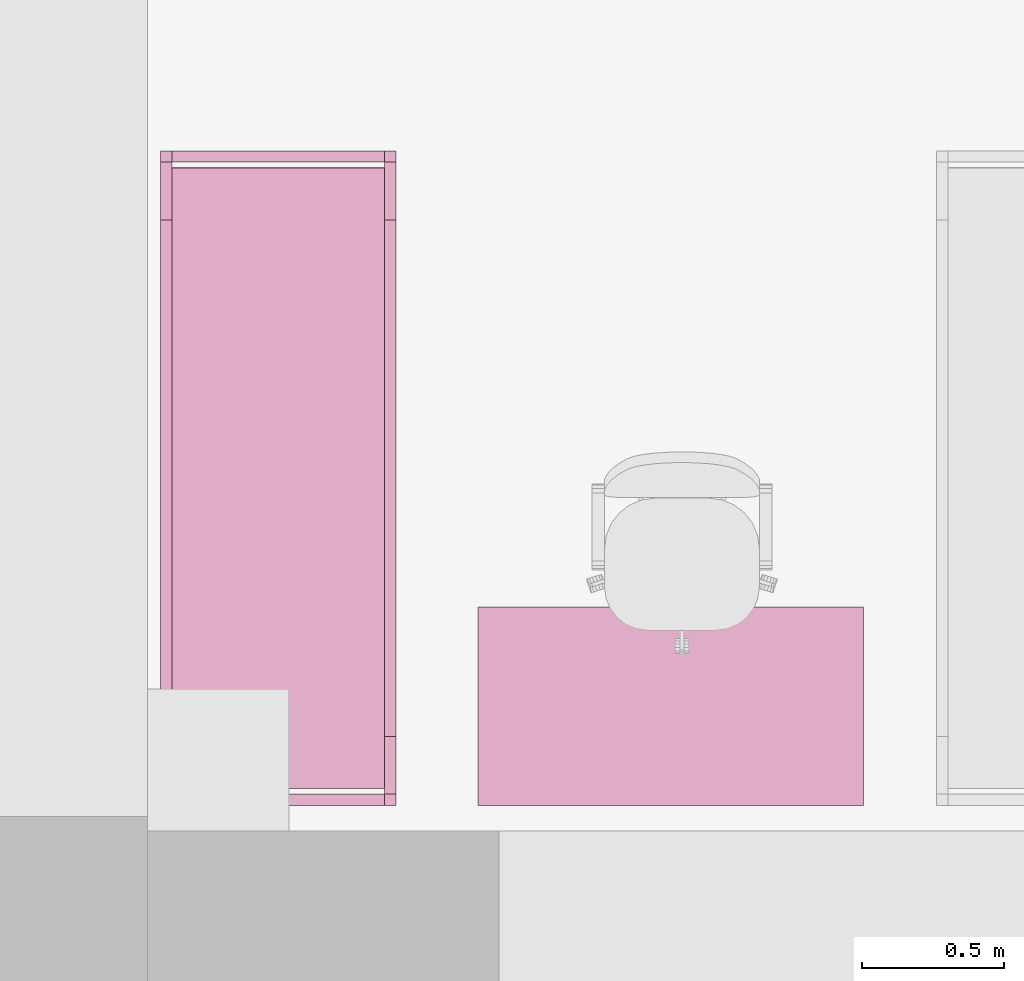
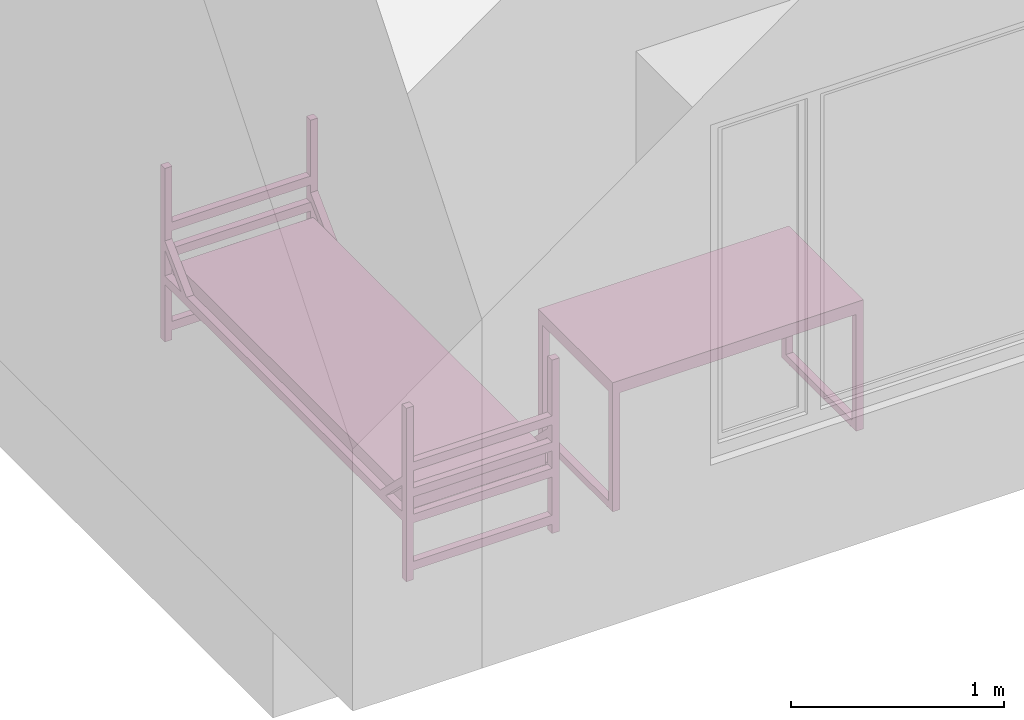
# One storey, part 26 of 46: 2 furnishings.
"""IFC2X3 building model written with IfcOpenShell, lengths in millimetres."""

import ifcopenshell
import ifcopenshell.guid

model = None  # the IFC model being written
_history = None  # IfcOwnerHistory: only IFC2X3 demands one
_inside = {}  # id of a spatial element -> (the spatial element, [elements in it])
_under = {}  # id of a project, library or spatial element -> (it, [spatial elements below it])
_declared = {}  # id of a project -> (the project, [libraries it declares])
_typed = {}  # id of a type object -> (the type object, [elements of that type])
_made_of = {}  # id of a material, layer set ... -> (it, [elements and type objects made of it])


def new_model(schema):
    """Start an empty IFC model of exactly this schema.

    Asked for "IFC4X3", IfcOpenShell would pick the latest addendum, in which some entities
    have other attributes; the version numbers below select the first issue.
    IFC2X3 requires an IfcOwnerHistory on every rooted entity: one is made here for all.
    """
    global model, _history
    if schema == "IFC4X3":
        model = ifcopenshell.file(schema_version=(4, 3, 0, 0))
    else:
        model = ifcopenshell.file(schema=schema)
    _inside.clear()
    _under.clear()
    _declared.clear()
    _typed.clear()
    _made_of.clear()
    _history = None
    if model.schema == "IFC2X3":
        org = make("IfcOrganization", Name="unknown")
        user = make(
            "IfcPersonAndOrganization",
            ThePerson=make("IfcPerson", FamilyName="unknown"),
            TheOrganization=org,
        )
        app = make(
            "IfcApplication",
            ApplicationDeveloper=org,
            Version="unknown",
            ApplicationFullName="unknown",
            ApplicationIdentifier="unknown",
        )
        _history = make(
            "IfcOwnerHistory",
            OwningUser=user,
            OwningApplication=app,
            ChangeAction="ADDED",
            CreationDate=0,
        )
    return model


def make(cls, **values):
    """One entity of the class cls with the attributes given. An attribute that is None is left unset."""
    return model.create_entity(
        cls, **{name: value for name, value in values.items() if value is not None}
    )


def entity(cls, *values):
    """Any entity or typed value of the class cls, its attributes in the order of the schema. None: left unset."""
    e = model.create_entity(cls)
    for i, value in enumerate(values):
        if value is not None:
            e[i] = value
    return e


def rooted(cls, **values):
    """An entity with a GlobalId (a new one), such as an element, a storey or a relation."""
    return make(cls, GlobalId=ifcopenshell.guid.new(), OwnerHistory=_history, **values)


def si_unit(unit_type, name, prefix=None):
    """IfcSIUnit, for example si_unit("LENGTHUNIT", "METRE", prefix="MILLI")."""
    return make("IfcSIUnit", UnitType=unit_type, Prefix=prefix, Name=name)


def converted_unit(unit_type, name, factor, base, dimensions=None, offset=None):
    """IfcConversionBasedUnit, such as the inch: factor (a typed value) times the base unit."""
    return make(
        "IfcConversionBasedUnit"
        if offset is None
        else "IfcConversionBasedUnitWithOffset",
        ConversionOffset=offset,
        Dimensions=None
        if dimensions is None
        else entity("IfcDimensionalExponents", *dimensions),
        UnitType=unit_type,
        Name=name,
        ConversionFactor=make(
            "IfcMeasureWithUnit", ValueComponent=factor, UnitComponent=base
        ),
    )


def derived_unit(unit_type, elements):
    """IfcDerivedUnit: a product of units, each with its exponent."""
    return make(
        "IfcDerivedUnit",
        Elements=[
            make("IfcDerivedUnitElement", Unit=unit, Exponent=power)
            for unit, power in elements
        ],
        UnitType=unit_type,
    )


def assignment(units):
    """IfcUnitAssignment: the units of a project."""
    return None if units is None else make("IfcUnitAssignment", Units=units)


def point(xyz):
    """IfcCartesianPoint."""
    return None if xyz is None else make("IfcCartesianPoint", Coordinates=xyz)


def direction(xyz):
    """IfcDirection."""
    return None if xyz is None else make("IfcDirection", DirectionRatios=xyz)


def frame(location, z_axis=None, x_axis=None):
    """IfcAxis2Placement3D, a coordinate frame: its origin and axes. An axis left out is left unset."""
    return make(
        "IfcAxis2Placement3D",
        Location=point(location),
        Axis=direction(z_axis),
        RefDirection=direction(x_axis),
    )


def frame_2d(location, x_axis=None):
    """IfcAxis2Placement2D, a coordinate frame in the plane: its origin and x axis."""
    return make(
        "IfcAxis2Placement2D", Location=point(location), RefDirection=direction(x_axis)
    )


def origin():
    """The frame at (0, 0, 0) with its axes left unset."""
    return frame((0.0, 0.0, 0.0))


def place(relative_to, where):
    """IfcLocalPlacement: puts the frame where relative to a parent placement (None: the world)."""
    return make(
        "IfcLocalPlacement", PlacementRelTo=relative_to, RelativePlacement=where
    )


def context(
    kind, dimensions, precision=None, world=None, true_north=None, identifier=None
):
    """IfcGeometricRepresentationContext, for example the 3D "Model" context."""
    return make(
        "IfcGeometricRepresentationContext",
        ContextIdentifier=identifier,
        ContextType=kind,
        CoordinateSpaceDimension=dimensions,
        Precision=precision,
        WorldCoordinateSystem=world,
        TrueNorth=true_north,
    )


def subcontext(parent, identifier, kind, view, scale=None):
    """IfcGeometricRepresentationSubContext, for example "Body" below "Model"."""
    return make(
        "IfcGeometricRepresentationSubContext",
        ContextIdentifier=identifier,
        ContextType=kind,
        ParentContext=parent,
        TargetScale=scale,
        TargetView=view,
    )


def project(units=None, contexts=None):
    """IfcProject with its units and contexts."""
    return rooted(
        "IfcProject",
        Name="project",
        RepresentationContexts=contexts,
        UnitsInContext=assignment(units),
    )


def spatial(cls, under=None, at=None, **own):
    """A site, building, storey or space (cls), placed at a placement, below another one or the project."""
    s = rooted(cls, ObjectPlacement=at, **own)
    if under is not None:
        _under.setdefault(under.id(), (under, []))[1].append(s)
    return s


def polyline(points):
    """IfcPolyline through the points."""
    return make("IfcPolyline", Points=[point(p) for p in points])


def circle_curve(where, radius):
    """IfcCircle in the frame where."""
    return make("IfcCircle", Position=where, Radius=radius)


def parameter(value):
    """IfcParameterValue: where a trimmed curve begins or ends, as a parameter of its basis curve."""
    return model.create_entity("IfcParameterValue", value)


def trimmed(basis, trim1, trim2, sense, master):
    """IfcTrimmedCurve: the piece of a basis curve between two trims."""
    return make(
        "IfcTrimmedCurve",
        BasisCurve=basis,
        Trim1=trim1,
        Trim2=trim2,
        SenseAgreement=sense,
        MasterRepresentation=master,
    )


def segment(curve, same_sense, transition):
    """IfcCompositeCurveSegment."""
    return make(
        "IfcCompositeCurveSegment",
        Transition=transition,
        SameSense=same_sense,
        ParentCurve=curve,
    )


def composite_curve(segments, self_intersect=None):
    """IfcCompositeCurve: segments joined end to end."""
    return make("IfcCompositeCurve", Segments=segments, SelfIntersect=self_intersect)


def profile(cls, at=None, kind="AREA", **sizes):
    """A parametric profile (cls). Its sizes go by their IFC names, for example OverallWidth=200.0."""
    return make(cls, ProfileType=kind, Position=at, **sizes)


def rectangle(**sizes):
    """IfcRectangleProfileDef."""
    return profile("IfcRectangleProfileDef", **sizes)


def outline(outer, holes=None, kind="AREA"):
    """IfcArbitraryClosedProfileDef: a profile drawn as a closed curve; with holes, ...WithVoids."""
    if holes is None:
        return make("IfcArbitraryClosedProfileDef", ProfileType=kind, OuterCurve=outer)
    return make(
        "IfcArbitraryProfileDefWithVoids",
        ProfileType=kind,
        OuterCurve=outer,
        InnerCurves=holes,
    )


def extrude(swept, where, along, depth):
    """IfcExtrudedAreaSolid: the profile swept, set in the frame where, extruded along a direction by depth."""
    return make(
        "IfcExtrudedAreaSolid",
        SweptArea=swept,
        Position=where,
        ExtrudedDirection=direction(along),
        Depth=depth,
    )


def faces_of(points, faces, orient=None, outer=None):
    """IfcFace entities. A face is a list of loops; a loop is a list of indices into points, from 0.

    orient and outer hold one flag for each loop. By default every Orientation is true, the
    first loop of a face is its IfcFaceOuterBound and the others are IfcFaceBound.
    """
    made = []
    for i, loops in enumerate(faces):
        bounds = []
        for j, loop in enumerate(loops):
            is_outer = j == 0 if outer is None else outer[i][j]
            bounds.append(
                make(
                    "IfcFaceOuterBound" if is_outer else "IfcFaceBound",
                    Bound=make("IfcPolyLoop", Polygon=[points[k] for k in loop]),
                    Orientation=True if orient is None else orient[i][j],
                )
            )
        made.append(make("IfcFace", Bounds=bounds))
    return made


def faceted_brep(points, faces, orient=None, outer=None, voids=None):
    """IfcFacetedBrep: a solid bounded by flat faces; with voids (closed shells), ...WithVoids."""
    shared = [point(p) for p in points]
    hull = make("IfcClosedShell", CfsFaces=faces_of(shared, faces, orient, outer))
    if voids is None:
        return make("IfcFacetedBrep", Outer=hull)
    return make(
        "IfcFacetedBrepWithVoids",
        Outer=hull,
        Voids=[
            make(cls, CfsFaces=faces_of(shared, fs, o, b)) for cls, fs, o, b in voids
        ],
    )


def shape(context_of_items, identifier, shape_type, items):
    """IfcShapeRepresentation: the items that make up one representation, for example the "Body"."""
    return make(
        "IfcShapeRepresentation",
        ContextOfItems=context_of_items,
        RepresentationIdentifier=identifier,
        RepresentationType=shape_type,
        Items=items,
    )


def source(mapping_origin, context_of_items, identifier, shape_type, items):
    """IfcRepresentationMap: a shape defined once, which mapped items show again and again."""
    return make(
        "IfcRepresentationMap",
        MappingOrigin=mapping_origin,
        MappedRepresentation=shape(context_of_items, identifier, shape_type, items),
    )


def transform(
    local_origin,
    x_axis=None,
    y_axis=None,
    z_axis=None,
    scale=None,
    scale2=None,
    scale3=None,
    uniform=True,
):
    """IfcCartesianTransformationOperator3D, or its non-uniform kind. x_axis, y_axis, z_axis: its Axis1, 2, 3."""
    if uniform:
        return make(
            "IfcCartesianTransformationOperator3D",
            Axis1=direction(x_axis),
            Axis2=direction(y_axis),
            LocalOrigin=point(local_origin),
            Scale=scale,
            Axis3=direction(z_axis),
        )
    return make(
        "IfcCartesianTransformationOperator3DnonUniform",
        Axis1=direction(x_axis),
        Axis2=direction(y_axis),
        LocalOrigin=point(local_origin),
        Scale=scale,
        Axis3=direction(z_axis),
        Scale2=scale2,
        Scale3=scale3,
    )


def mapped(mapping_source, mapping_target):
    """IfcMappedItem: shows the shape of a source again, moved by a transform."""
    return make(
        "IfcMappedItem", MappingSource=mapping_source, MappingTarget=mapping_target
    )


def material(Name=None, Category=None):
    """IfcMaterial."""
    return make("IfcMaterial", Name=Name, Category=Category)


def material_list(materials):
    """IfcMaterialList."""
    return make("IfcMaterialList", Materials=materials)


def made_of(thing, what):
    """Note that an element or type object is made of a material, layer set ...; save() writes the relation."""
    if what is not None:
        _made_of.setdefault(what.id(), (what, []))[1].append(thing)
    return thing


def type_object(cls, material=None, **own):
    """A type object (cls), such as IfcWallType, which elements share."""
    return made_of(rooted(cls, **own), material)


def type_shapes(of_type, sources):
    """Give a type object the sources (RepresentationMaps) that its elements show as mapped items."""
    of_type.RepresentationMaps = sources


def element(
    cls,
    number,
    at=None,
    inside=None,
    cuts=None,
    type_object=None,
    material=None,
    context=None,
    identifier="Body",
    shape_type=None,
    held_by="IfcProductDefinitionShape",
    body=None,
    shapes=None,
    **own,
):
    """One element of the class cls, such as IfcWall. Its Tag is "e" and its number.

    at: its placement. inside: the storey or other place that contains it. cuts: it is an
    opening in that element (IfcRelVoidsElement). A single representation is given by context,
    identifier, shape_type and body (its items); several are given by shapes. held_by: the class
    of the entity that holds the representations. save() writes the other relations.
    """
    e = rooted(cls, Tag="e%d" % number, ObjectPlacement=at, **own)
    if body is not None:
        shapes = [shape(context, identifier, shape_type, body)]
    if shapes is not None:
        e.Representation = make(held_by, Representations=shapes)
    if inside is not None:
        _inside.setdefault(inside.id(), (inside, []))[1].append(e)
    if cuts is not None:
        rooted(
            "IfcRelVoidsElement", RelatingBuildingElement=cuts, RelatedOpeningElement=e
        )
    if type_object is not None:
        _typed.setdefault(type_object.id(), (type_object, []))[1].append(e)
    return made_of(e, material)


def aggregate(whole, parts):
    """IfcRelAggregates: a whole, such as a stair, and the parts it consists of."""
    return rooted("IfcRelAggregates", RelatingObject=whole, RelatedObjects=parts)


def save(model, path):
    """Write the relations noted so far, then the file.

    IfcRelAggregates (storeys below a building ...), IfcRelContainedInSpatialStructure (elements
    in a storey), IfcRelDefinesByType, IfcRelAssociatesMaterial and IfcRelDeclares: one each for
    every whole, place, type object, material and project.
    """
    for whole, parts in _under.values():
        aggregate(whole, parts)
    for where, things in _inside.values():
        rooted(
            "IfcRelContainedInSpatialStructure",
            RelatedElements=things,
            RelatingStructure=where,
        )
    for kind, things in _typed.values():
        rooted("IfcRelDefinesByType", RelatedObjects=things, RelatingType=kind)
    for what, things in _made_of.values():
        rooted("IfcRelAssociatesMaterial", RelatedObjects=things, RelatingMaterial=what)
    for by, libraries in _declared.values():
        rooted("IfcRelDeclares", RelatingContext=by, RelatedDefinitions=libraries)
    model.write(path)


model = new_model("IFC2X3")

# Units and contexts
model_context = context("Model", 3, precision=0.01, world=origin(), true_north=direction((6.12303176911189e-17, 1.0)))
body_context = subcontext(model_context, "Body", "Model", "MODEL_VIEW")
ifc_project = project(units=[si_unit("LENGTHUNIT", "METRE", prefix="MILLI"), si_unit("AREAUNIT", "SQUARE_METRE"), si_unit("VOLUMEUNIT", "CUBIC_METRE"), converted_unit("PLANEANGLEUNIT", "DEGREE", entity("IfcRatioMeasure", 0.0174532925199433), si_unit("PLANEANGLEUNIT", "RADIAN"), dimensions=[0, 0, 0, 0, 0, 0, 0]), si_unit("MASSUNIT", "GRAM", prefix="KILO"), derived_unit("MASSDENSITYUNIT", [(si_unit("MASSUNIT", "GRAM", prefix="KILO"), 1), (si_unit("LENGTHUNIT", "METRE"), -3)]), si_unit("TIMEUNIT", "SECOND"), si_unit("FREQUENCYUNIT", "HERTZ"), si_unit("THERMODYNAMICTEMPERATUREUNIT", "DEGREE_CELSIUS"), derived_unit("THERMALTRANSMITTANCEUNIT", [(si_unit("MASSUNIT", "GRAM", prefix="KILO"), 1), (si_unit("THERMODYNAMICTEMPERATUREUNIT", "KELVIN"), -1), (si_unit("TIMEUNIT", "SECOND"), -3)]), derived_unit("VOLUMETRICFLOWRATEUNIT", [(si_unit("LENGTHUNIT", "METRE"), 3), (si_unit("TIMEUNIT", "SECOND"), -1)]), si_unit("ELECTRICCURRENTUNIT", "AMPERE"), si_unit("ELECTRICVOLTAGEUNIT", "VOLT"), si_unit("POWERUNIT", "WATT"), si_unit("FORCEUNIT", "NEWTON", prefix="KILO"), si_unit("ILLUMINANCEUNIT", "LUX"), si_unit("LUMINOUSFLUXUNIT", "LUMEN"), si_unit("LUMINOUSINTENSITYUNIT", "CANDELA"), derived_unit("USERDEFINED", [(si_unit("MASSUNIT", "GRAM", prefix="KILO"), -1), (si_unit("LENGTHUNIT", "METRE"), -2), (si_unit("TIMEUNIT", "SECOND"), 3), (si_unit("LUMINOUSFLUXUNIT", "LUMEN"), 1)]), derived_unit("LINEARVELOCITYUNIT", [(si_unit("LENGTHUNIT", "METRE"), 1), (si_unit("TIMEUNIT", "SECOND"), -1)]), si_unit("PRESSUREUNIT", "PASCAL"), derived_unit("USERDEFINED", [(si_unit("LENGTHUNIT", "METRE"), -2), (si_unit("MASSUNIT", "GRAM", prefix="KILO"), 1), (si_unit("TIMEUNIT", "SECOND"), -2)]), derived_unit("LINEARFORCEUNIT", [(si_unit("MASSUNIT", "GRAM", prefix="KILO"), 1), (si_unit("LENGTHUNIT", "METRE"), 1), (si_unit("TIMEUNIT", "SECOND"), -2), (si_unit("LENGTHUNIT", "METRE"), -1)]), derived_unit("PLANARFORCEUNIT", [(si_unit("MASSUNIT", "GRAM", prefix="KILO"), 1), (si_unit("LENGTHUNIT", "METRE"), 1), (si_unit("TIMEUNIT", "SECOND"), -2), (si_unit("LENGTHUNIT", "METRE"), -2)])], contexts=[model_context])

# Site, building, storey, space
site_placement = place(None, origin())
site = spatial("IfcSite", under=ifc_project, at=site_placement, Name="Default", CompositionType="ELEMENT")
building_placement = place(site_placement, origin())
building = spatial("IfcBuilding", under=site, at=building_placement, Name="SMA ARH", CompositionType="ELEMENT")
storey_placement = place(building_placement, origin())
storey = spatial("IfcBuildingStorey", under=building, at=storey_placement, Name="1 Korrus", CompositionType="ELEMENT", Elevation=0.0)
space_placement = place(storey_placement, origin())
space = spatial("IfcSpace", under=storey, at=space_placement, Name="1-15", CompositionType="ELEMENT", InteriorOrExteriorSpace="INTERNAL")

# Furnishings
ifc_material_1 = material(Name="Madrats")
furniture_type_1 = type_object("IfcFurnitureType", Name="Kasarmu voodi ühekordne 2308x830:Kasarmu voodi ühekordne 2308x830", material=ifc_material_1)
shared_shape_1 = source(origin(), body_context, "Body", "SweptSolid", [
    extrude(rectangle(XDim=39.9999999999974, YDim=750.000000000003, at=frame_2d((-1.35003119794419e-13, -2.8421709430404e-14), x_axis=(1.0, 0.0))), frame((1.68638457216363, -1226.7969571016, 55.0), z_axis=(0.0, 0.0, 1.0), x_axis=(0.0, -1.0, 0.0)), (0.0, 0.0, 1.0), 49.9999999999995),
    extrude(rectangle(XDim=39.9999999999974, YDim=750.000000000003, at=frame_2d((-1.35003119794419e-13, -2.8421709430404e-14), x_axis=(1.0, 0.0))), frame((1.68638457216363, -1226.7969571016, 325.0), z_axis=(0.0, 0.0, 1.0), x_axis=(0.0, -1.0, 0.0)), (0.0, 0.0, 1.0), 49.9999999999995),
    extrude(rectangle(XDim=39.9999999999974, YDim=750.000000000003, at=frame_2d((-1.35003119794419e-13, -2.8421709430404e-14), x_axis=(1.0, 0.0))), frame((1.68638457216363, -1226.7969571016, 475.0), z_axis=(0.0, 0.0, 1.0), x_axis=(0.0, -1.0, 0.0)), (0.0, 0.0, 1.0), 49.9999999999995),
    extrude(rectangle(XDim=39.9999999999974, YDim=750.000000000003, at=frame_2d((-1.35003119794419e-13, -2.8421709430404e-14), x_axis=(1.0, 0.0))), frame((1.68638457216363, -1226.7969571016, 625.0), z_axis=(0.0, 0.0, 1.0), x_axis=(0.0, -1.0, 0.0)), (0.0, 0.0, 1.0), 50.0000000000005),
    extrude(rectangle(XDim=39.9999999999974, YDim=750.000000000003, at=frame_2d((1.35003119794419e-13, -2.8421709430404e-14), x_axis=(1.0, 0.0))), frame((1.68638457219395, 1041.2030428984, 55.0), z_axis=(0.0, 0.0, 1.0), x_axis=(0.0, -1.0, 0.0)), (0.0, 0.0, 1.0), 50.0000000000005),
    extrude(rectangle(XDim=39.9999999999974, YDim=750.000000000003, at=frame_2d((1.35003119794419e-13, -2.8421709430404e-14), x_axis=(1.0, 0.0))), frame((1.68638457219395, 1041.2030428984, 325.0), z_axis=(0.0, 0.0, 1.0), x_axis=(0.0, -1.0, 0.0)), (0.0, 0.0, 1.0), 50.0000000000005),
    extrude(rectangle(XDim=39.9999999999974, YDim=750.000000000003, at=frame_2d((1.35003119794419e-13, -2.8421709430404e-14), x_axis=(1.0, 0.0))), frame((1.68638457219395, 1041.2030428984, 475.0), z_axis=(0.0, 0.0, 1.0), x_axis=(0.0, -1.0, 0.0)), (0.0, 0.0, 1.0), 50.0000000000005),
    extrude(rectangle(XDim=39.9999999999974, YDim=750.000000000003, at=frame_2d((1.35003119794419e-13, -2.8421709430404e-14), x_axis=(1.0, 0.0))), frame((1.68638457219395, 1041.2030428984, 625.0), z_axis=(0.0, 0.0, 1.0), x_axis=(0.0, -1.0, 0.0)), (0.0, 0.0, 1.0), 49.9999999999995),
    extrude(outline(composite_curve([segment(trimmed(circle_curve(frame_2d((1085.0, -40.0), x_axis=(1.0, 0.0)), 10.0), [parameter(270.0)], [parameter(0.0)], True, "PARAMETER"), True, "CONTINUOUS"), segment(polyline([(1095.0, -40.0), (1095.0, 40.0)]), True, "CONTINUOUS"), segment(trimmed(circle_curve(frame_2d((1085.0, 40.0), x_axis=(1.0, 0.0)), 10.0), [parameter(0.0)], [parameter(90.0000000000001)], True, "PARAMETER"), True, "CONTINUOUS"), segment(polyline([(1085.0, 50.0), (-1085.0, 50.0)]), True, "CONTINUOUS"), segment(trimmed(circle_curve(frame_2d((-1085.0, 40.0), x_axis=(1.0, 0.0)), 10.0), [parameter(90.0000000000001)], [parameter(180.0)], True, "PARAMETER"), True, "CONTINUOUS"), segment(polyline([(-1095.0, 40.0), (-1095.0, -40.0)]), True, "CONTINUOUS"), segment(trimmed(circle_curve(frame_2d((-1085.0, -40.0), x_axis=(1.0, 0.0)), 10.0), [parameter(180.0)], [parameter(270.0)], True, "PARAMETER"), True, "CONTINUOUS"), segment(polyline([(-1085.0, -50.0), (1085.0, -50.0)]), True, "CONTINUOUS")], self_intersect=False)), frame((-373.313615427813, -92.7969571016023, 405.0), z_axis=(1.0, 0.0, 0.0), x_axis=(0.0, -1.0, 0.0)), (0.0, 0.0, 1.0), 750.000000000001),
    extrude(outline(polyline([(-1114.0, -100.0), (1114.0, -100.0), (1114.0, -50.0), (961.59199141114, -50.0), (1114.0, 100.0), (1114.0, 150.0), (910.789321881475, -50.0), (-910.789321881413, -50.0), (-1114.0, 150.0), (-1114.0, 100.0), (-961.591991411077, -50.0), (-1114.0, -50.0), (-1114.0, -100.0)])), frame((-413.313615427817, -92.7969571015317, 430.0), z_axis=(1.0, 0.0, 0.0), x_axis=(0.0, 1.0, 0.0)), (0.0, 0.0, 1.0), 39.9999999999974),
    extrude(outline(polyline([(-1114.0, -100.0), (1114.0, -100.0), (1114.0, -50.0), (961.591991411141, -50.0), (1114.0, 100.0), (1114.0, 150.0), (910.789321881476, -50.0), (-910.789321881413, -50.0), (-1114.0, 150.0), (-1114.0, 100.0), (-961.591991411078, -50.0), (-1114.0, -50.0), (-1114.0, -100.0)])), frame((376.686384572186, -92.796957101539, 430.0), z_axis=(1.0, 0.0, 0.0), x_axis=(0.0, 1.0, 0.0)), (0.0, 0.0, 1.0), 39.9999999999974),
    extrude(rectangle(XDim=39.9999999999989, YDim=39.9999999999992, at=frame_2d((-6.75015598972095e-14, 0.0), x_axis=(1.0, 0.0))), frame((396.686384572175, -1226.79695710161, 0.0), z_axis=(0.0, 0.0, 1.0), x_axis=(0.0, 1.0, 0.0)), (0.0, 0.0, 1.0), 995.0),
    extrude(rectangle(XDim=39.9999999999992, YDim=39.9999999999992, at=frame_2d((-1.35003119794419e-13, 0.0), x_axis=(1.0, 0.0))), frame((396.686384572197, 1041.20304289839, 0.0), z_axis=(0.0, 0.0, 1.0), x_axis=(0.0, 1.0, 0.0)), (0.0, 0.0, 1.0), 995.0),
    extrude(rectangle(XDim=40.0000000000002, YDim=39.9999999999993, at=frame_2d((-1.35003119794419e-13, 0.0), x_axis=(1.0, 0.0))), frame((-393.313615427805, 1041.2030428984, 0.0), z_axis=(0.0, 0.0, 1.0), x_axis=(0.0, 1.0, 0.0)), (0.0, 0.0, 1.0), 995.0),
    extrude(rectangle(XDim=39.9999999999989, YDim=39.9999999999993, at=frame_2d((-6.75015598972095e-14, 0.0), x_axis=(1.0, 0.0))), frame((-393.313615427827, -1226.7969571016, 0.0), z_axis=(0.0, 0.0, 1.0), x_axis=(0.0, 1.0, 0.0)), (0.0, 0.0, 1.0), 995.0),
])
type_shapes(furniture_type_1, [shared_shape_1])
furnishing_1_placement = place(space_placement, frame((460.0, 1336.79695710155, 0.0)))
element("IfcFurnishingElement", 1, at=furnishing_1_placement, inside=space, type_object=furniture_type_1, material=ifc_material_1, Name="Kasarmu voodi ühekordne 2308x830:Kasarmu voodi ühekordne 2308x830", ObjectType="Kasarmu voodi ühekordne 2308x830:Kasarmu voodi ühekordne 2308x830", context=body_context, shape_type="MappedRepresentation", body=[
    mapped(shared_shape_1, transform((0.0, 0.0, 0.0), scale=1.0)),
])
ifc_material_2 = material(Name="<Unnamed>")
ifc_material_list = material_list([ifc_material_2, ifc_material_2])
furniture_type_2 = type_object("IfcFurnitureType", Name="kirjutuslaud 1360x700mm:kirjutuslaud 1360x700mm", material=ifc_material_list)
shared_shape_2 = source(origin(), body_context, "Body", "Brep", [
    faceted_brep([(680.0, -350.0, 720.0), (680.0, 350.0, 720.0), (680.0, 350.0, 750.0), (680.0, -350.0, 750.0), (-680.0, -350.0, 720.0), (-680.0, -350.0, 750.0), (-680.0, 350.0, 750.0), (-680.0, 350.0, 720.0)], [[[0, 1, 2, 3]], [[4, 5, 6, 7]], [[1, 0, 4, 7]], [[2, 1, 7, 6]], [[3, 2, 6, 5]], [[0, 3, 5, 4]]]),
    faceted_brep([(-640.0, -310.0, 680.0), (-640.0, 310.0, 680.0), (-640.0, 310.0, 720.0), (-640.0, -310.0, 720.0), (-680.0, -350.0, 720.0), (-680.0, 350.0, 720.0), (-680.0, 350.0, 10.0), (-680.0, -350.0, 10.0), (-680.0, 310.0, 680.0), (-680.0, -310.0, 680.0), (-680.0, -310.0, 50.0), (-680.0, 310.0, 50.0), (-640.0, -350.0, 10.0), (-640.0, -350.0, 680.0), (640.0, -350.0, 680.0), (640.0, -350.0, 10.0), (680.0, -350.0, 10.0), (680.0, -350.0, 720.0), (-640.0, 350.0, 10.0), (680.0, 350.0, 720.0), (680.0, 350.0, 10.0), (640.0, 350.0, 10.0), (640.0, 350.0, 680.0), (-640.0, 350.0, 680.0), (640.0, 310.0, 720.0), (640.0, -310.0, 720.0), (-640.0, 310.0, 50.0), (-640.0, -310.0, 50.0), (640.0, -310.0, 680.0), (640.0, 310.0, 680.0), (680.0, 310.0, 680.0), (680.0, 310.0, 50.0), (680.0, -310.0, 50.0), (680.0, -310.0, 680.0), (640.0, -310.0, 50.0), (640.0, 310.0, 50.0)], [[[0, 1, 2, 3]], [[4, 5, 6, 7], [8, 9, 10, 11]], [[4, 7, 12, 13, 14, 15, 16, 17]], [[18, 12, 7, 6]], [[6, 5, 19, 20, 21, 22, 23, 18]], [[19, 5, 4, 17], [2, 24, 25, 3]], [[26, 1, 8, 11]], [[27, 26, 11, 10]], [[0, 27, 10, 9]], [[1, 0, 9, 8]], [[14, 13, 0, 28]], [[24, 2, 1, 29]], [[3, 25, 28, 0]], [[17, 16, 20, 19], [30, 31, 32, 33]], [[21, 15, 14, 28, 34, 35, 29, 22]], [[20, 16, 15, 21]], [[31, 30, 29, 35]], [[32, 31, 35, 34]], [[33, 32, 34, 28]], [[30, 33, 28, 29]], [[29, 28, 25, 24]], [[29, 1, 23, 22]], [[12, 18, 23, 1, 26, 27, 0, 13]]]),
    faceted_brep([(-663.729456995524, -270.466136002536, 0.0), (-659.847171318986, -269.955023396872, 0.0), (-655.964885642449, -270.466136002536, 0.0), (-652.347171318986, -271.964642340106, 0.0), (-649.240569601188, -274.348421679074, 0.0), (-646.85679026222, -277.455023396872, 0.0), (-645.35828392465, -281.072737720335, 0.0), (-644.847171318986, -284.955023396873, 0.0), (-645.35828392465, -288.83730907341, 0.0), (-646.85679026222, -292.455023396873, 0.0), (-649.240569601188, -295.561625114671, 0.0), (-652.347171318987, -297.945404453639, 0.0), (-655.964885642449, -299.443910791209, 0.0), (-659.847171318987, -299.955023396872, 0.0), (-663.729456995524, -299.443910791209, 0.0), (-667.347171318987, -297.945404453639, 0.0), (-670.453773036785, -295.561625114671, 0.0), (-672.837552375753, -292.455023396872, 0.0), (-674.336058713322, -288.83730907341, 0.0), (-674.847171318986, -284.955023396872, 0.0), (-674.336058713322, -281.072737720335, 0.0), (-672.837552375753, -277.455023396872, 0.0), (-670.453773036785, -274.348421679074, 0.0), (-667.347171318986, -271.964642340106, 0.0), (-655.964885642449, -299.443910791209, 10.0), (-652.347171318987, -297.945404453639, 10.0), (-649.240569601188, -295.561625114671, 10.0), (-646.85679026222, -292.455023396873, 10.0), (-645.35828392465, -288.83730907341, 10.0), (-644.847171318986, -284.955023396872, 10.0), (-645.35828392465, -281.072737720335, 10.0), (-646.85679026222, -277.455023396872, 10.0), (-649.240569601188, -274.348421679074, 10.0), (-652.347171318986, -271.964642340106, 10.0), (-655.964885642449, -270.466136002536, 10.0), (-659.847171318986, -269.955023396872, 10.0), (-663.729456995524, -270.466136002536, 10.0), (-667.347171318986, -271.964642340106, 10.0), (-670.453773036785, -274.348421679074, 10.0), (-672.837552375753, -277.455023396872, 10.0), (-674.336058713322, -281.072737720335, 10.0), (-674.847171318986, -284.955023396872, 10.0), (-674.336058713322, -288.83730907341, 10.0), (-672.837552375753, -292.455023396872, 10.0), (-670.453773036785, -295.561625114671, 10.0), (-667.347171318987, -297.945404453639, 10.0), (-663.729456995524, -299.443910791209, 10.0), (-659.847171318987, -299.955023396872, 10.0)], [[[0, 1, 2, 3, 4, 5, 6, 7, 8, 9, 10, 11, 12, 13, 14, 15, 16, 17, 18, 19, 20, 21, 22, 23]], [[24, 25, 26, 27, 28, 29, 30, 31, 32, 33, 34, 35, 36, 37, 38, 39, 40, 41, 42, 43, 44, 45, 46, 47]], [[18, 42, 41, 19]], [[17, 43, 42, 18]], [[45, 44, 16, 15]], [[17, 16, 44, 43]], [[46, 45, 15, 14]], [[47, 46, 14, 13]], [[12, 24, 47, 13]], [[11, 25, 24, 12]], [[27, 26, 10, 9]], [[11, 10, 26, 25]], [[28, 27, 9, 8]], [[29, 28, 8, 7]], [[6, 30, 29, 7]], [[5, 31, 30, 6]], [[33, 32, 4, 3]], [[5, 4, 32, 31]], [[34, 33, 3, 2]], [[35, 34, 2, 1]], [[0, 36, 35, 1]], [[23, 37, 36, 0]], [[39, 38, 22, 21]], [[23, 22, 38, 37]], [[40, 39, 21, 20]], [[41, 40, 20, 19]]]),
    faceted_brep([(-655.964885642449, 270.466136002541, 10.0), (-652.347171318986, 271.964642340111, 10.0), (-649.240569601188, 274.348421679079, 10.0), (-646.85679026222, 277.455023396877, 10.0), (-645.35828392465, 281.07273772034, 10.0), (-644.847171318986, 284.955023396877, 10.0), (-645.35828392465, 288.837309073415, 10.0), (-646.85679026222, 292.455023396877, 10.0), (-649.240569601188, 295.561625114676, 10.0), (-652.347171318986, 297.945404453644, 10.0), (-655.964885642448, 299.443910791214, 10.0), (-659.847171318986, 299.955023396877, 10.0), (-663.729456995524, 299.443910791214, 10.0), (-667.347171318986, 297.945404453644, 10.0), (-670.453773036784, 295.561625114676, 10.0), (-672.837552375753, 292.455023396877, 10.0), (-674.336058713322, 288.837309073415, 10.0), (-674.847171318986, 284.955023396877, 10.0), (-674.336058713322, 281.07273772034, 10.0), (-672.837552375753, 277.455023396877, 10.0), (-670.453773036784, 274.348421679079, 10.0), (-667.347171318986, 271.964642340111, 10.0), (-663.729456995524, 270.466136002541, 10.0), (-659.847171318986, 269.955023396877, 10.0), (-655.964885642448, 299.443910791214, 0.0), (-652.347171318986, 297.945404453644, 0.0), (-649.240569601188, 295.561625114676, 0.0), (-646.85679026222, 292.455023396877, 0.0), (-645.35828392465, 288.837309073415, 0.0), (-644.847171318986, 284.955023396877, 0.0), (-645.35828392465, 281.07273772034, 0.0), (-646.85679026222, 277.455023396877, 0.0), (-649.240569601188, 274.348421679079, 0.0), (-652.347171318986, 271.964642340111, 0.0), (-655.964885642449, 270.466136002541, 0.0), (-659.847171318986, 269.955023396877, 0.0), (-663.729456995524, 270.466136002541, 0.0), (-667.347171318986, 271.964642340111, 0.0), (-670.453773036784, 274.348421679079, 0.0), (-672.837552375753, 277.455023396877, 0.0), (-674.336058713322, 281.07273772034, 0.0), (-674.847171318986, 284.955023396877, 0.0), (-674.336058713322, 288.837309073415, 0.0), (-672.837552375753, 292.455023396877, 0.0), (-670.453773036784, 295.561625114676, 0.0), (-667.347171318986, 297.945404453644, 0.0), (-663.729456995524, 299.443910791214, 0.0), (-659.847171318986, 299.955023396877, 0.0)], [[[0, 1, 2, 3, 4, 5, 6, 7, 8, 9, 10, 11, 12, 13, 14, 15, 16, 17, 18, 19, 20, 21, 22, 23]], [[24, 25, 26, 27, 28, 29, 30, 31, 32, 33, 34, 35, 36, 37, 38, 39, 40, 41, 42, 43, 44, 45, 46, 47]], [[40, 18, 17, 41]], [[39, 19, 18, 40]], [[21, 20, 38, 37]], [[39, 38, 20, 19]], [[22, 21, 37, 36]], [[23, 22, 36, 35]], [[34, 0, 23, 35]], [[33, 1, 0, 34]], [[3, 2, 32, 31]], [[33, 32, 2, 1]], [[4, 3, 31, 30]], [[5, 4, 30, 29]], [[28, 6, 5, 29]], [[27, 7, 6, 28]], [[9, 8, 26, 25]], [[27, 26, 8, 7]], [[10, 9, 25, 24]], [[11, 10, 24, 47]], [[46, 12, 11, 47]], [[45, 13, 12, 46]], [[15, 14, 44, 43]], [[45, 44, 14, 13]], [[16, 15, 43, 42]], [[17, 16, 42, 41]]]),
    faceted_brep([(656.270543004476, -270.466136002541, 0.0), (660.152828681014, -269.955023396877, 0.0), (664.035114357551, -270.466136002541, 0.0), (667.652828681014, -271.96464234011, 0.0), (670.759430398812, -274.348421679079, 0.0), (673.14320973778, -277.455023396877, 0.0), (674.64171607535, -281.072737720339, 0.0), (675.152828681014, -284.955023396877, 0.0), (674.64171607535, -288.837309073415, 0.0), (673.14320973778, -292.455023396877, 0.0), (670.759430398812, -295.561625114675, 0.0), (667.652828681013, -297.945404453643, 0.0), (664.035114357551, -299.443910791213, 0.0), (660.152828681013, -299.955023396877, 0.0), (656.270543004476, -299.443910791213, 0.0), (652.652828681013, -297.945404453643, 0.0), (649.546226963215, -295.561625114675, 0.0), (647.162447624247, -292.455023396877, 0.0), (645.663941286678, -288.837309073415, 0.0), (645.152828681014, -284.955023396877, 0.0), (645.663941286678, -281.072737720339, 0.0), (647.162447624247, -277.455023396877, 0.0), (649.546226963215, -274.348421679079, 0.0), (652.652828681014, -271.96464234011, 0.0), (664.035114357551, -299.443910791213, 10.0), (667.652828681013, -297.945404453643, 10.0), (670.759430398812, -295.561625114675, 10.0), (673.14320973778, -292.455023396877, 10.0), (674.64171607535, -288.837309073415, 10.0), (675.152828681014, -284.955023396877, 10.0), (674.64171607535, -281.072737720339, 10.0), (673.14320973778, -277.455023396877, 10.0), (670.759430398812, -274.348421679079, 10.0), (667.652828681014, -271.96464234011, 10.0), (664.035114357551, -270.466136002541, 10.0), (660.152828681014, -269.955023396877, 10.0), (656.270543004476, -270.466136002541, 10.0), (652.652828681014, -271.96464234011, 10.0), (649.546226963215, -274.348421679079, 10.0), (647.162447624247, -277.455023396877, 10.0), (645.663941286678, -281.072737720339, 10.0), (645.152828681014, -284.955023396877, 10.0), (645.663941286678, -288.837309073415, 10.0), (647.162447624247, -292.455023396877, 10.0), (649.546226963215, -295.561625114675, 10.0), (652.652828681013, -297.945404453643, 10.0), (656.270543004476, -299.443910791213, 10.0), (660.152828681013, -299.955023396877, 10.0)], [[[0, 1, 2, 3, 4, 5, 6, 7, 8, 9, 10, 11, 12, 13, 14, 15, 16, 17, 18, 19, 20, 21, 22, 23]], [[24, 25, 26, 27, 28, 29, 30, 31, 32, 33, 34, 35, 36, 37, 38, 39, 40, 41, 42, 43, 44, 45, 46, 47]], [[18, 42, 41, 19]], [[17, 43, 42, 18]], [[45, 44, 16, 15]], [[17, 16, 44, 43]], [[46, 45, 15, 14]], [[47, 46, 14, 13]], [[12, 24, 47, 13]], [[11, 25, 24, 12]], [[27, 26, 10, 9]], [[11, 10, 26, 25]], [[28, 27, 9, 8]], [[29, 28, 8, 7]], [[6, 30, 29, 7]], [[5, 31, 30, 6]], [[33, 32, 4, 3]], [[5, 4, 32, 31]], [[34, 33, 3, 2]], [[35, 34, 2, 1]], [[0, 36, 35, 1]], [[23, 37, 36, 0]], [[39, 38, 22, 21]], [[23, 22, 38, 37]], [[40, 39, 21, 20]], [[41, 40, 20, 19]]]),
    faceted_brep([(664.035114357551, 270.466136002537, 10.0), (667.652828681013, 271.964642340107, 10.0), (670.759430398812, 274.348421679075, 10.0), (673.14320973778, 277.455023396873, 10.0), (674.64171607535, 281.072737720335, 10.0), (675.152828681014, 284.955023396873, 10.0), (674.64171607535, 288.837309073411, 10.0), (673.14320973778, 292.455023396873, 10.0), (670.759430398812, 295.561625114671, 10.0), (667.652828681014, 297.94540445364, 10.0), (664.035114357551, 299.443910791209, 10.0), (660.152828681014, 299.955023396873, 10.0), (656.270543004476, 299.443910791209, 10.0), (652.652828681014, 297.94540445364, 10.0), (649.546226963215, 295.561625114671, 10.0), (647.162447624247, 292.455023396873, 10.0), (645.663941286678, 288.837309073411, 10.0), (645.152828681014, 284.955023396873, 10.0), (645.663941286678, 281.072737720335, 10.0), (647.162447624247, 277.455023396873, 10.0), (649.546226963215, 274.348421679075, 10.0), (652.652828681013, 271.964642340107, 10.0), (656.270543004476, 270.466136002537, 10.0), (660.152828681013, 269.955023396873, 10.0), (664.035114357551, 299.443910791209, 0.0), (667.652828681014, 297.94540445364, 0.0), (670.759430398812, 295.561625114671, 0.0), (673.14320973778, 292.455023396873, 0.0), (674.64171607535, 288.837309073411, 0.0), (675.152828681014, 284.955023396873, 0.0), (674.64171607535, 281.072737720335, 0.0), (673.14320973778, 277.455023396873, 0.0), (670.759430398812, 274.348421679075, 0.0), (667.652828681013, 271.964642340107, 0.0), (664.035114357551, 270.466136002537, 0.0), (660.152828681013, 269.955023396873, 0.0), (656.270543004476, 270.466136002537, 0.0), (652.652828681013, 271.964642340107, 0.0), (649.546226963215, 274.348421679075, 0.0), (647.162447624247, 277.455023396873, 0.0), (645.663941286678, 281.072737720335, 0.0), (645.152828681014, 284.955023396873, 0.0), (645.663941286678, 288.837309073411, 0.0), (647.162447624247, 292.455023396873, 0.0), (649.546226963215, 295.561625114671, 0.0), (652.652828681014, 297.94540445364, 0.0), (656.270543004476, 299.443910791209, 0.0), (660.152828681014, 299.955023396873, 0.0)], [[[0, 1, 2, 3, 4, 5, 6, 7, 8, 9, 10, 11, 12, 13, 14, 15, 16, 17, 18, 19, 20, 21, 22, 23]], [[24, 25, 26, 27, 28, 29, 30, 31, 32, 33, 34, 35, 36, 37, 38, 39, 40, 41, 42, 43, 44, 45, 46, 47]], [[40, 18, 17, 41]], [[39, 19, 18, 40]], [[21, 20, 38, 37]], [[39, 38, 20, 19]], [[22, 21, 37, 36]], [[23, 22, 36, 35]], [[34, 0, 23, 35]], [[33, 1, 0, 34]], [[3, 2, 32, 31]], [[33, 32, 2, 1]], [[4, 3, 31, 30]], [[5, 4, 30, 29]], [[28, 6, 5, 29]], [[27, 7, 6, 28]], [[9, 8, 26, 25]], [[27, 26, 8, 7]], [[10, 9, 25, 24]], [[11, 10, 24, 47]], [[46, 12, 11, 47]], [[45, 13, 12, 46]], [[15, 14, 44, 43]], [[45, 44, 14, 13]], [[16, 15, 43, 42]], [[17, 16, 42, 41]]]),
])
type_shapes(furniture_type_2, [shared_shape_2])
furnishing_2_placement = place(space_placement, frame((1845.50000000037, 440.0, 0.0)))
element("IfcFurnishingElement", 2, at=furnishing_2_placement, inside=space, type_object=furniture_type_2, Name="kirjutuslaud 1360x700mm:kirjutuslaud 1360x700mm", ObjectType="kirjutuslaud 1360x700mm:kirjutuslaud 1360x700mm", context=body_context, shape_type="MappedRepresentation", body=[
    mapped(shared_shape_2, transform((0.0, 0.0, 0.0), scale=1.0)),
])

save(model, "model.ifc")
